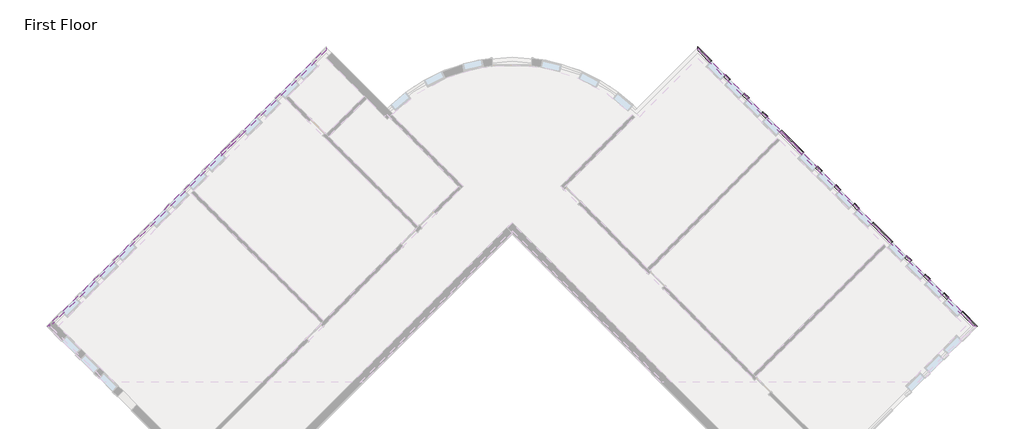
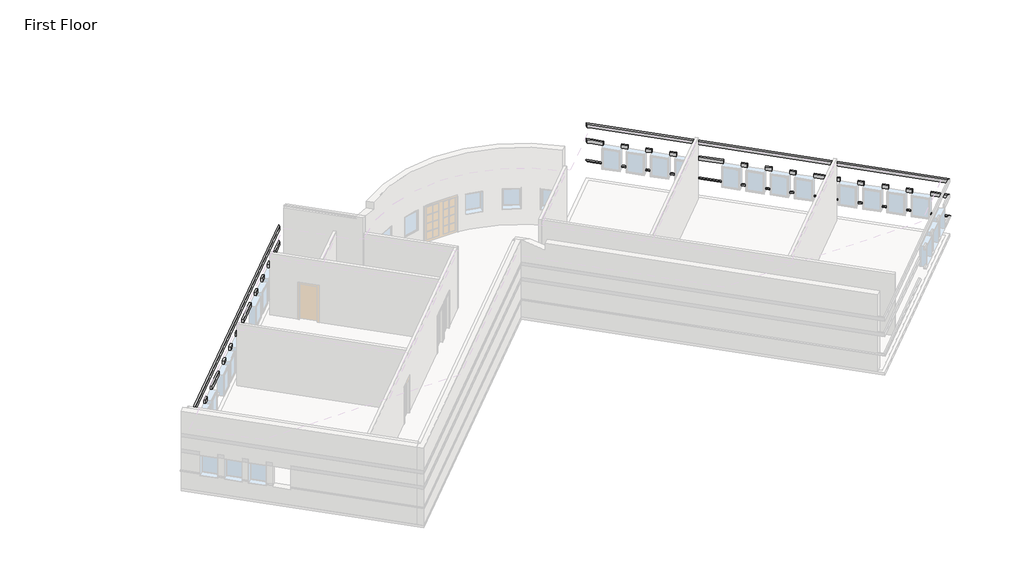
# One storey, part 4 of 4: 5 proxies.
"""IFC4 building model written with IfcOpenShell, lengths in millimetres."""

import ifcopenshell
import ifcopenshell.guid

model = None  # the IFC model being written
_history = None  # IfcOwnerHistory: only IFC2X3 demands one
_inside = {}  # id of a spatial element -> (the spatial element, [elements in it])
_under = {}  # id of a project, library or spatial element -> (it, [spatial elements below it])
_declared = {}  # id of a project -> (the project, [libraries it declares])
_typed = {}  # id of a type object -> (the type object, [elements of that type])
_made_of = {}  # id of a material, layer set ... -> (it, [elements and type objects made of it])


def new_model(schema):
    """Start an empty IFC model of exactly this schema.

    Asked for "IFC4X3", IfcOpenShell would pick the latest addendum, in which some entities
    have other attributes; the version numbers below select the first issue.
    IFC2X3 requires an IfcOwnerHistory on every rooted entity: one is made here for all.
    """
    global model, _history
    if schema == "IFC4X3":
        model = ifcopenshell.file(schema_version=(4, 3, 0, 0))
    else:
        model = ifcopenshell.file(schema=schema)
    _inside.clear()
    _under.clear()
    _declared.clear()
    _typed.clear()
    _made_of.clear()
    _history = None
    if model.schema == "IFC2X3":
        org = make("IfcOrganization", Name="unknown")
        user = make(
            "IfcPersonAndOrganization",
            ThePerson=make("IfcPerson", FamilyName="unknown"),
            TheOrganization=org,
        )
        app = make(
            "IfcApplication",
            ApplicationDeveloper=org,
            Version="unknown",
            ApplicationFullName="unknown",
            ApplicationIdentifier="unknown",
        )
        _history = make(
            "IfcOwnerHistory",
            OwningUser=user,
            OwningApplication=app,
            ChangeAction="ADDED",
            CreationDate=0,
        )
    return model


def make(cls, **values):
    """One entity of the class cls with the attributes given. An attribute that is None is left unset."""
    return model.create_entity(
        cls, **{name: value for name, value in values.items() if value is not None}
    )


def rooted(cls, **values):
    """An entity with a GlobalId (a new one), such as an element, a storey or a relation."""
    return make(cls, GlobalId=ifcopenshell.guid.new(), OwnerHistory=_history, **values)


def si_unit(unit_type, name, prefix=None):
    """IfcSIUnit, for example si_unit("LENGTHUNIT", "METRE", prefix="MILLI")."""
    return make("IfcSIUnit", UnitType=unit_type, Prefix=prefix, Name=name)


def assignment(units):
    """IfcUnitAssignment: the units of a project."""
    return None if units is None else make("IfcUnitAssignment", Units=units)


def point(xyz):
    """IfcCartesianPoint."""
    return None if xyz is None else make("IfcCartesianPoint", Coordinates=xyz)


def direction(xyz):
    """IfcDirection."""
    return None if xyz is None else make("IfcDirection", DirectionRatios=xyz)


def frame(location, z_axis=None, x_axis=None):
    """IfcAxis2Placement3D, a coordinate frame: its origin and axes. An axis left out is left unset."""
    return make(
        "IfcAxis2Placement3D",
        Location=point(location),
        Axis=direction(z_axis),
        RefDirection=direction(x_axis),
    )


def origin():
    """The frame at (0, 0, 0) with its axes left unset."""
    return frame((0.0, 0.0, 0.0))


def place(relative_to, where):
    """IfcLocalPlacement: puts the frame where relative to a parent placement (None: the world)."""
    return make(
        "IfcLocalPlacement", PlacementRelTo=relative_to, RelativePlacement=where
    )


def context(
    kind, dimensions, precision=None, world=None, true_north=None, identifier=None
):
    """IfcGeometricRepresentationContext, for example the 3D "Model" context."""
    return make(
        "IfcGeometricRepresentationContext",
        ContextIdentifier=identifier,
        ContextType=kind,
        CoordinateSpaceDimension=dimensions,
        Precision=precision,
        WorldCoordinateSystem=world,
        TrueNorth=true_north,
    )


def project(units=None, contexts=None):
    """IfcProject with its units and contexts."""
    return rooted(
        "IfcProject",
        Name="project",
        RepresentationContexts=contexts,
        UnitsInContext=assignment(units),
    )


def spatial(cls, under=None, at=None, **own):
    """A site, building, storey or space (cls), placed at a placement, below another one or the project."""
    s = rooted(cls, ObjectPlacement=at, **own)
    if under is not None:
        _under.setdefault(under.id(), (under, []))[1].append(s)
    return s


def faces_of(points, faces, orient=None, outer=None):
    """IfcFace entities. A face is a list of loops; a loop is a list of indices into points, from 0.

    orient and outer hold one flag for each loop. By default every Orientation is true, the
    first loop of a face is its IfcFaceOuterBound and the others are IfcFaceBound.
    """
    made = []
    for i, loops in enumerate(faces):
        bounds = []
        for j, loop in enumerate(loops):
            is_outer = j == 0 if outer is None else outer[i][j]
            bounds.append(
                make(
                    "IfcFaceOuterBound" if is_outer else "IfcFaceBound",
                    Bound=make("IfcPolyLoop", Polygon=[points[k] for k in loop]),
                    Orientation=True if orient is None else orient[i][j],
                )
            )
        made.append(make("IfcFace", Bounds=bounds))
    return made


def faceted_brep(points, faces, orient=None, outer=None, voids=None):
    """IfcFacetedBrep: a solid bounded by flat faces; with voids (closed shells), ...WithVoids."""
    shared = [point(p) for p in points]
    hull = make("IfcClosedShell", CfsFaces=faces_of(shared, faces, orient, outer))
    if voids is None:
        return make("IfcFacetedBrep", Outer=hull)
    return make(
        "IfcFacetedBrepWithVoids",
        Outer=hull,
        Voids=[
            make(cls, CfsFaces=faces_of(shared, fs, o, b)) for cls, fs, o, b in voids
        ],
    )


def shape(context_of_items, identifier, shape_type, items):
    """IfcShapeRepresentation: the items that make up one representation, for example the "Body"."""
    return make(
        "IfcShapeRepresentation",
        ContextOfItems=context_of_items,
        RepresentationIdentifier=identifier,
        RepresentationType=shape_type,
        Items=items,
    )


def made_of(thing, what):
    """Note that an element or type object is made of a material, layer set ...; save() writes the relation."""
    if what is not None:
        _made_of.setdefault(what.id(), (what, []))[1].append(thing)
    return thing


def element(
    cls,
    number,
    at=None,
    inside=None,
    cuts=None,
    type_object=None,
    material=None,
    context=None,
    identifier="Body",
    shape_type=None,
    held_by="IfcProductDefinitionShape",
    body=None,
    shapes=None,
    **own,
):
    """One element of the class cls, such as IfcWall. Its Tag is "e" and its number.

    at: its placement. inside: the storey or other place that contains it. cuts: it is an
    opening in that element (IfcRelVoidsElement). A single representation is given by context,
    identifier, shape_type and body (its items); several are given by shapes. held_by: the class
    of the entity that holds the representations. save() writes the other relations.
    """
    e = rooted(cls, Tag="e%d" % number, ObjectPlacement=at, **own)
    if body is not None:
        shapes = [shape(context, identifier, shape_type, body)]
    if shapes is not None:
        e.Representation = make(held_by, Representations=shapes)
    if inside is not None:
        _inside.setdefault(inside.id(), (inside, []))[1].append(e)
    if cuts is not None:
        rooted(
            "IfcRelVoidsElement", RelatingBuildingElement=cuts, RelatedOpeningElement=e
        )
    if type_object is not None:
        _typed.setdefault(type_object.id(), (type_object, []))[1].append(e)
    return made_of(e, material)


def aggregate(whole, parts):
    """IfcRelAggregates: a whole, such as a stair, and the parts it consists of."""
    return rooted("IfcRelAggregates", RelatingObject=whole, RelatedObjects=parts)


def save(model, path):
    """Write the relations noted so far, then the file.

    IfcRelAggregates (storeys below a building ...), IfcRelContainedInSpatialStructure (elements
    in a storey), IfcRelDefinesByType, IfcRelAssociatesMaterial and IfcRelDeclares: one each for
    every whole, place, type object, material and project.
    """
    for whole, parts in _under.values():
        aggregate(whole, parts)
    for where, things in _inside.values():
        rooted(
            "IfcRelContainedInSpatialStructure",
            RelatedElements=things,
            RelatingStructure=where,
        )
    for kind, things in _typed.values():
        rooted("IfcRelDefinesByType", RelatedObjects=things, RelatingType=kind)
    for what, things in _made_of.values():
        rooted("IfcRelAssociatesMaterial", RelatedObjects=things, RelatingMaterial=what)
    for by, libraries in _declared.values():
        rooted("IfcRelDeclares", RelatingContext=by, RelatedDefinitions=libraries)
    model.write(path)


model = new_model("IFC4")

# Units and contexts
model_context = context("Model", 3, world=origin())
ifc_project = project(units=[si_unit("LENGTHUNIT", "METRE", prefix="MILLI")], contexts=[model_context])

# Site, building, storey
site = spatial("IfcSite", under=ifc_project)
building = spatial("IfcBuilding", under=site)
storey = spatial("IfcBuildingStorey", under=building, Name="First Floor", Elevation=0.0)

# Proxies
placement = place(None, origin())
element("IfcBuildingElementProxy", 1, Name="Wall Sweeps", at=placement, inside=storey, context=model_context, shape_type="Brep", body=[
    faceted_brep([(5753.0175119, 11443.3655905, 1085.85), (5753.0175119, 11573.5793042, 1085.85), (5753.0175119, 11622.9707129, 1041.4), (5753.0175119, 11622.9707129, 1016.0), (5753.0175119, 11443.3655905, 1016.0), (6317.415551, 10878.9675514, 1085.85), (6317.415551, 10878.9675514, 1016.0), (6382.5224079, 10944.0744083, 1016.0), (6407.2181122, 10968.7701126, 1016.0), (6407.2181122, 10968.7701126, 1041.4), (6382.5224079, 10944.0744083, 1085.85), (5937.1127624, 11259.27034, 1085.85), (5937.1127624, 11259.27034, 1016.0)], [[[0, 1, 2, 3, 4]], [[5, 6, 7, 8, 9, 10]], [[1, 0, 11, 5, 10]], [[2, 1, 10, 9]], [[3, 2, 9, 8]], [[4, 3, 8, 7, 6, 12]], [[0, 4, 12, 6, 5, 11]]]),
    faceted_brep([(6963.9939917, 10232.3891107, 1085.85), (7029.1008486, 10297.4959676, 1085.85), (7053.7965529, 10322.1916719, 1041.4), (7053.7965529, 10322.1916719, 1016.0), (7029.1008486, 10297.4959676, 1016.0), (6963.9939917, 10232.3891107, 1016.0), (7179.5201386, 10016.8629638, 1085.85), (7179.5201386, 10016.8629638, 1016.0), (7244.6269955, 10081.9698207, 1016.0), (7269.3226998, 10106.665525, 1016.0), (7269.3226998, 10106.665525, 1041.4), (7244.6269955, 10081.9698207, 1085.85)], [[[0, 1, 2, 3, 4, 5]], [[6, 7, 8, 9, 10, 11]], [[1, 0, 6, 11]], [[2, 1, 11, 10]], [[3, 2, 10, 9]], [[5, 4, 3, 9, 8, 7]], [[0, 5, 7, 6]]]),
    faceted_brep([(7826.0985793, 9370.2845231, 1085.85), (7891.2054362, 9435.39138, 1085.85), (7915.9011405, 9460.0870843, 1041.4), (7915.9011405, 9460.0870843, 1016.0), (7891.2054362, 9435.39138, 1016.0), (7826.0985793, 9370.2845231, 1016.0), (8041.6247262, 9154.7583762, 1085.85), (8041.6247262, 9154.7583762, 1016.0), (8106.7315831, 9219.8652331, 1016.0), (8131.4272874, 9244.5609374, 1016.0), (8131.4272874, 9244.5609374, 1041.4), (8106.7315831, 9219.8652331, 1085.85)], [[[0, 1, 2, 3, 4, 5]], [[6, 7, 8, 9, 10, 11]], [[1, 0, 6, 11]], [[2, 1, 11, 10]], [[3, 2, 10, 9]], [[5, 4, 3, 9, 8, 7]], [[0, 5, 7, 6]]]),
    faceted_brep([(8688.2031669, 8508.1799355, 1085.85), (8753.3100238, 8573.2867923, 1085.85), (8778.0057282, 8597.9824967, 1041.4), (8778.0057282, 8597.9824967, 1016.0), (8753.3100238, 8573.2867923, 1016.0), (8688.2031669, 8508.1799355, 1016.0), (8903.7293139, 8292.6537886, 1085.85), (8903.7293139, 8292.6537886, 1016.0), (8968.8361707, 8357.7606454, 1016.0), (8993.5318751, 8382.4563498, 1016.0), (8993.5318751, 8382.4563498, 1041.4), (8968.8361707, 8357.7606454, 1085.85)], [[[0, 1, 2, 3, 4, 5]], [[6, 7, 8, 9, 10, 11]], [[1, 0, 6, 11]], [[2, 1, 11, 10]], [[3, 2, 10, 9]], [[5, 4, 3, 9, 8, 7]], [[0, 5, 7, 6]]]),
    faceted_brep([(9550.3077546, 7646.0753478, 1085.85), (9615.4146114, 7711.1822047, 1085.85), (9640.1103158, 7735.877909, 1041.4), (9640.1103158, 7735.877909, 1016.0), (9615.4146114, 7711.1822047, 1016.0), (9550.3077546, 7646.0753478, 1016.0), (10574.7639411, 6621.6191613, 1085.85), (10574.7639411, 6621.6191613, 1016.0), (10639.870798, 6686.7260182, 1016.0), (10664.5665023, 6711.4217225, 1016.0), (10664.5665023, 6711.4217225, 1041.4), (10639.870798, 6686.7260182, 1085.85)], [[[0, 1, 2, 3, 4, 5]], [[6, 7, 8, 9, 10, 11]], [[1, 0, 6, 11]], [[2, 1, 11, 10]], [[3, 2, 10, 9]], [[5, 4, 3, 9, 8, 7]], [[0, 5, 7, 6]]]),
    faceted_brep([(11221.3423818, 5975.0407206, 1085.85), (11286.4492387, 6040.1475775, 1085.85), (11311.144943, 6064.8432818, 1041.4), (11311.144943, 6064.8432818, 1016.0), (11286.4492387, 6040.1475775, 1016.0), (11221.3423818, 5975.0407206, 1016.0), (11436.8685287, 5759.5145737, 1085.85), (11436.8685287, 5759.5145737, 1016.0), (11501.9753856, 5824.6214306, 1016.0), (11526.6710899, 5849.3171349, 1016.0), (11526.6710899, 5849.3171349, 1041.4), (11501.9753856, 5824.6214306, 1085.85)], [[[0, 1, 2, 3, 4, 5]], [[6, 7, 8, 9, 10, 11]], [[1, 0, 6, 11]], [[2, 1, 11, 10]], [[3, 2, 10, 9]], [[5, 4, 3, 9, 8, 7]], [[0, 5, 7, 6]]]),
    faceted_brep([(12083.4469694, 5112.936133, 1085.85), (12148.5538263, 5178.0429899, 1085.85), (12173.2495306, 5202.7386942, 1041.4), (12173.2495306, 5202.7386942, 1016.0), (12148.5538263, 5178.0429899, 1016.0), (12083.4469694, 5112.936133, 1016.0), (12298.9731163, 4897.4099861, 1085.85), (12298.9731163, 4897.4099861, 1016.0), (12364.0799732, 4962.516843, 1016.0), (12388.7756775, 4987.2125473, 1016.0), (12388.7756775, 4987.2125473, 1041.4), (12364.0799732, 4962.516843, 1085.85)], [[[0, 1, 2, 3, 4, 5]], [[6, 7, 8, 9, 10, 11]], [[1, 0, 6, 11]], [[2, 1, 11, 10]], [[3, 2, 10, 9]], [[5, 4, 3, 9, 8, 7]], [[0, 5, 7, 6]]]),
    faceted_brep([(12945.551557, 4250.8315454, 1085.85), (13010.6584139, 4315.9384023, 1085.85), (13035.3541182, 4340.6341066, 1041.4), (13035.3541182, 4340.6341066, 1016.0), (13010.6584139, 4315.9384023, 1016.0), (12945.551557, 4250.8315454, 1016.0), (13161.0777039, 4035.3053985, 1085.85), (13161.0777039, 4035.3053985, 1016.0), (13226.1845608, 4100.4122553, 1016.0), (13250.8802652, 4125.1079597, 1016.0), (13250.8802652, 4125.1079597, 1041.4), (13226.1845608, 4100.4122553, 1085.85)], [[[0, 1, 2, 3, 4, 5]], [[6, 7, 8, 9, 10, 11]], [[1, 0, 6, 11]], [[2, 1, 11, 10]], [[3, 2, 10, 9]], [[5, 4, 3, 9, 8, 7]], [[0, 5, 7, 6]]]),
    faceted_brep([(13807.6561447, 3388.7269578, 1085.85), (13872.7630015, 3453.8338146, 1085.85), (13897.4587059, 3478.529519, 1041.4), (13897.4587059, 3478.529519, 1016.0), (13872.7630015, 3453.8338146, 1016.0), (13807.6561447, 3388.7269578, 1016.0), (14723.1708449, 2473.2122576, 1085.85), (14723.1708449, 2473.2122576, 1016.0), (14788.2777017, 2538.3191144, 1016.0), (14812.9734061, 2563.0148188, 1016.0), (14812.9734061, 2563.0148188, 1041.4), (14788.2777017, 2538.3191144, 1085.85)], [[[0, 1, 2, 3, 4, 5]], [[6, 7, 8, 9, 10, 11]], [[1, 0, 6, 11]], [[2, 1, 11, 10]], [[3, 2, 10, 9]], [[5, 4, 3, 9, 8, 7]], [[0, 5, 7, 6]]]),
    faceted_brep([(15369.7492856, 1826.6338168, 1085.85), (15434.8561424, 1891.7406737, 1085.85), (15459.5518468, 1916.4363781, 1041.4), (15459.5518468, 1916.4363781, 1016.0), (15434.8561424, 1891.7406737, 1016.0), (15369.7492856, 1826.6338168, 1016.0), (15585.2754325, 1611.1076699, 1085.85), (15585.2754325, 1611.1076699, 1016.0), (15650.3822894, 1676.2145268, 1016.0), (15675.0779937, 1700.9102311, 1016.0), (15675.0779937, 1700.9102311, 1041.4), (15650.3822894, 1676.2145268, 1085.85)], [[[0, 1, 2, 3, 4, 5]], [[6, 7, 8, 9, 10, 11]], [[1, 0, 6, 11]], [[2, 1, 11, 10]], [[3, 2, 10, 9]], [[5, 4, 3, 9, 8, 7]], [[0, 5, 7, 6]]]),
    faceted_brep([(16231.8538732, 964.5292292, 1085.85), (16296.9607301, 1029.6360861, 1085.85), (16321.6564344, 1054.3317904, 1041.4), (16321.6564344, 1054.3317904, 1016.0), (16296.9607301, 1029.6360861, 1016.0), (16231.8538732, 964.5292292, 1016.0), (16447.3800201, 749.0030823, 1085.85), (16447.3800201, 749.0030823, 1016.0), (16512.486877, 814.1099392, 1016.0), (16537.1825813, 838.8056435, 1016.0), (16537.1825813, 838.8056435, 1041.4), (16512.486877, 814.1099392, 1085.85)], [[[0, 1, 2, 3, 4, 5]], [[6, 7, 8, 9, 10, 11]], [[1, 0, 6, 11]], [[2, 1, 11, 10]], [[3, 2, 10, 9]], [[5, 4, 3, 9, 8, 7]], [[0, 5, 7, 6]]]),
    faceted_brep([(17093.9584608, 102.4246416, 1085.85), (17159.0653177, 167.5314985, 1085.85), (17183.761022, 192.2272028, 1041.4), (17183.761022, 192.2272028, 1016.0), (17159.0653177, 167.5314985, 1016.0), (17093.9584608, 102.4246416, 1016.0), (17309.4846077, -113.1015053, 1085.85), (17309.4846077, -113.1015053, 1016.0), (17374.5914646, -47.9946484, 1016.0), (17399.2871689, -23.2989441, 1016.0), (17399.2871689, -23.2989441, 1041.4), (17374.5914646, -47.9946484, 1085.85)], [[[0, 1, 2, 3, 4, 5]], [[6, 7, 8, 9, 10, 11]], [[1, 0, 6, 11]], [[2, 1, 11, 10]], [[3, 2, 10, 9]], [[5, 4, 3, 9, 8, 7]], [[0, 5, 7, 6]]]),
    faceted_brep([(17956.0630484, -759.679946, 1085.85), (18021.1699053, -694.5730891, 1085.85), (18045.8656096, -669.8773848, 1041.4), (18045.8656096, -669.8773848, 1016.0), (18021.1699053, -694.5730891, 1016.0), (17956.0630484, -759.679946, 1016.0), (18554.3726125, -1357.9895101, 1085.85), (18554.3726125, -1357.9895101, 1016.0), (18733.9777349, -1357.9895101, 1016.0), (18733.9777349, -1357.9895101, 1041.4), (18684.5863263, -1357.9895101, 1085.85)], [[[0, 1, 2, 3, 4, 5]], [[6, 7, 8, 9, 10]], [[1, 0, 6, 10]], [[2, 1, 10, 9]], [[3, 2, 9, 8]], [[5, 4, 3, 8, 7]], [[0, 5, 7, 6]]]),
])
element("IfcBuildingElementProxy", 2, Name="Wall Sweeps", at=placement, inside=storey, context=model_context, shape_type="Brep", body=[
    faceted_brep([(5753.0175119, 11573.5793042, 2336.8), (5753.0175119, 11573.5793042, 2133.6), (5753.0175119, 11443.3655905, 2133.6), (5753.0175119, 11443.3655905, 2336.8), (6382.5224079, 10944.0744083, 2336.8), (6317.415551, 10878.9675514, 2336.8), (6317.415551, 10878.9675514, 2133.6), (6382.5224079, 10944.0744083, 2133.6), (6002.2196193, 11324.3771969, 2336.8), (6002.2196193, 11324.3771969, 2133.6), (5937.1127624, 11259.27034, 2133.6), (5937.1127624, 11259.27034, 2336.8)], [[[0, 1, 2, 3]], [[4, 5, 6, 7]], [[1, 0, 8, 4, 7, 9]], [[2, 1, 9, 7, 6, 10]], [[3, 2, 10, 6, 5, 11]], [[0, 3, 11, 5, 4, 8]]]),
    faceted_brep([(7029.1008486, 10297.4959676, 2336.8), (7029.1008486, 10297.4959676, 2133.6), (6963.9939917, 10232.3891107, 2133.6), (6963.9939917, 10232.3891107, 2336.8), (7244.6269955, 10081.9698207, 2336.8), (7179.5201386, 10016.8629638, 2336.8), (7179.5201386, 10016.8629638, 2133.6), (7244.6269955, 10081.9698207, 2133.6)], [[[0, 1, 2, 3]], [[4, 5, 6, 7]], [[1, 0, 4, 7]], [[2, 1, 7, 6]], [[3, 2, 6, 5]], [[0, 3, 5, 4]]]),
    faceted_brep([(7891.2054362, 9435.39138, 2336.8), (7891.2054362, 9435.39138, 2133.6), (7826.0985793, 9370.2845231, 2133.6), (7826.0985793, 9370.2845231, 2336.8), (8106.7315831, 9219.8652331, 2336.8), (8041.6247262, 9154.7583762, 2336.8), (8041.6247262, 9154.7583762, 2133.6), (8106.7315831, 9219.8652331, 2133.6)], [[[0, 1, 2, 3]], [[4, 5, 6, 7]], [[1, 0, 4, 7]], [[2, 1, 7, 6]], [[3, 2, 6, 5]], [[0, 3, 5, 4]]]),
    faceted_brep([(8753.3100238, 8573.2867923, 2336.8), (8753.3100238, 8573.2867923, 2133.6), (8688.2031669, 8508.1799355, 2133.6), (8688.2031669, 8508.1799355, 2336.8), (8968.8361707, 8357.7606454, 2336.8), (8903.7293139, 8292.6537886, 2336.8), (8903.7293139, 8292.6537886, 2133.6), (8968.8361707, 8357.7606454, 2133.6)], [[[0, 1, 2, 3]], [[4, 5, 6, 7]], [[1, 0, 4, 7]], [[2, 1, 7, 6]], [[3, 2, 6, 5]], [[0, 3, 5, 4]]]),
    faceted_brep([(9615.4146114, 7711.1822047, 2336.8), (9615.4146114, 7711.1822047, 2133.6), (9550.3077546, 7646.0753478, 2133.6), (9550.3077546, 7646.0753478, 2336.8), (10639.870798, 6686.7260182, 2336.8), (10574.7639411, 6621.6191613, 2336.8), (10574.7639411, 6621.6191613, 2133.6), (10639.870798, 6686.7260182, 2133.6)], [[[0, 1, 2, 3]], [[4, 5, 6, 7]], [[1, 0, 4, 7]], [[2, 1, 7, 6]], [[3, 2, 6, 5]], [[0, 3, 5, 4]]]),
    faceted_brep([(11286.4492387, 6040.1475775, 2336.8), (11286.4492387, 6040.1475775, 2133.6), (11221.3423818, 5975.0407206, 2133.6), (11221.3423818, 5975.0407206, 2336.8), (11501.9753856, 5824.6214306, 2336.8), (11436.8685287, 5759.5145737, 2336.8), (11436.8685287, 5759.5145737, 2133.6), (11501.9753856, 5824.6214306, 2133.6)], [[[0, 1, 2, 3]], [[4, 5, 6, 7]], [[1, 0, 4, 7]], [[2, 1, 7, 6]], [[3, 2, 6, 5]], [[0, 3, 5, 4]]]),
    faceted_brep([(12148.5538263, 5178.0429899, 2336.8), (12148.5538263, 5178.0429899, 2133.6), (12083.4469694, 5112.936133, 2133.6), (12083.4469694, 5112.936133, 2336.8), (12364.0799732, 4962.516843, 2336.8), (12298.9731163, 4897.4099861, 2336.8), (12298.9731163, 4897.4099861, 2133.6), (12364.0799732, 4962.516843, 2133.6)], [[[0, 1, 2, 3]], [[4, 5, 6, 7]], [[1, 0, 4, 7]], [[2, 1, 7, 6]], [[3, 2, 6, 5]], [[0, 3, 5, 4]]]),
    faceted_brep([(13010.6584139, 4315.9384023, 2336.8), (13010.6584139, 4315.9384023, 2133.6), (12945.551557, 4250.8315454, 2133.6), (12945.551557, 4250.8315454, 2336.8), (13226.1845608, 4100.4122553, 2336.8), (13161.0777039, 4035.3053985, 2336.8), (13161.0777039, 4035.3053985, 2133.6), (13226.1845608, 4100.4122553, 2133.6)], [[[0, 1, 2, 3]], [[4, 5, 6, 7]], [[1, 0, 4, 7]], [[2, 1, 7, 6]], [[3, 2, 6, 5]], [[0, 3, 5, 4]]]),
    faceted_brep([(13872.7630015, 3453.8338146, 2336.8), (13872.7630015, 3453.8338146, 2133.6), (13807.6561447, 3388.7269578, 2133.6), (13807.6561447, 3388.7269578, 2336.8), (14788.2777017, 2538.3191144, 2336.8), (14723.1708449, 2473.2122576, 2336.8), (14723.1708449, 2473.2122576, 2133.6), (14788.2777017, 2538.3191144, 2133.6)], [[[0, 1, 2, 3]], [[4, 5, 6, 7]], [[1, 0, 4, 7]], [[2, 1, 7, 6]], [[3, 2, 6, 5]], [[0, 3, 5, 4]]]),
    faceted_brep([(15434.8561424, 1891.7406737, 2336.8), (15434.8561424, 1891.7406737, 2133.6), (15369.7492856, 1826.6338168, 2133.6), (15369.7492856, 1826.6338168, 2336.8), (15650.3822894, 1676.2145268, 2336.8), (15585.2754325, 1611.1076699, 2336.8), (15585.2754325, 1611.1076699, 2133.6), (15650.3822894, 1676.2145268, 2133.6)], [[[0, 1, 2, 3]], [[4, 5, 6, 7]], [[1, 0, 4, 7]], [[2, 1, 7, 6]], [[3, 2, 6, 5]], [[0, 3, 5, 4]]]),
    faceted_brep([(16296.9607301, 1029.6360861, 2336.8), (16296.9607301, 1029.6360861, 2133.6), (16231.8538732, 964.5292292, 2133.6), (16231.8538732, 964.5292292, 2336.8), (16512.486877, 814.1099392, 2336.8), (16447.3800201, 749.0030823, 2336.8), (16447.3800201, 749.0030823, 2133.6), (16512.486877, 814.1099392, 2133.6)], [[[0, 1, 2, 3]], [[4, 5, 6, 7]], [[1, 0, 4, 7]], [[2, 1, 7, 6]], [[3, 2, 6, 5]], [[0, 3, 5, 4]]]),
    faceted_brep([(17159.0653177, 167.5314985, 2336.8), (17159.0653177, 167.5314985, 2133.6), (17093.9584608, 102.4246416, 2133.6), (17093.9584608, 102.4246416, 2336.8), (17374.5914646, -47.9946484, 2336.8), (17309.4846077, -113.1015053, 2336.8), (17309.4846077, -113.1015053, 2133.6), (17374.5914646, -47.9946484, 2133.6)], [[[0, 1, 2, 3]], [[4, 5, 6, 7]], [[1, 0, 4, 7]], [[2, 1, 7, 6]], [[3, 2, 6, 5]], [[0, 3, 5, 4]]]),
    faceted_brep([(18021.1699053, -694.5730891, 2336.8), (18021.1699053, -694.5730891, 2133.6), (17956.0630484, -759.679946, 2133.6), (17956.0630484, -759.679946, 2336.8), (18684.5863263, -1357.9895101, 2336.8), (18554.3726125, -1357.9895101, 2336.8), (18554.3726125, -1357.9895101, 2133.6), (18684.5863263, -1357.9895101, 2133.6)], [[[0, 1, 2, 3]], [[4, 5, 6, 7]], [[1, 0, 4, 7]], [[2, 1, 7, 6]], [[3, 2, 6, 5]], [[0, 3, 5, 4]]]),
])
element("IfcBuildingElementProxy", 3, Name="Wall Sweeps", at=placement, inside=storey, context=model_context, shape_type="Brep", body=[
    faceted_brep([(5753.0175119, 11573.5793042, 3251.2), (5753.0175119, 11573.5793042, 3048.0), (5753.0175119, 11443.3655905, 3048.0), (5753.0175119, 11443.3655905, 3251.2), (18684.5863263, -1357.9895101, 3251.2), (18554.3726125, -1357.9895101, 3251.2), (18554.3726125, -1357.9895101, 3048.0), (18684.5863263, -1357.9895101, 3048.0), (6002.2196193, 11324.3771969, 3251.2), (6002.2196193, 11324.3771969, 3048.0), (5937.1127624, 11259.27034, 3048.0), (5937.1127624, 11259.27034, 3251.2)], [[[0, 1, 2, 3]], [[4, 5, 6, 7]], [[1, 0, 8, 4, 7, 9]], [[2, 1, 9, 7, 6, 10]], [[3, 2, 10, 6, 5, 11]], [[0, 3, 11, 5, 4, 8]]]),
])
element("IfcBuildingElementProxy", 4, Name="Wall Sweeps", at=placement, inside=storey, context=model_context, shape_type="Brep", body=[
    faceted_brep([(-24420.6430549, -1357.9895101, 2336.8), (-24420.6430549, -1357.9895101, 2133.6), (-24290.4293411, -1357.9895101, 2133.6), (-24290.4293411, -1357.9895101, 2336.8), (-23757.2266339, -694.5730891, 2336.8), (-23692.119777, -759.679946, 2336.8), (-23692.119777, -759.679946, 2133.6), (-23757.2266339, -694.5730891, 2133.6), (-24171.4409475, -1108.7874027, 2336.8), (-24171.4409475, -1108.7874027, 2133.6), (-24106.3340906, -1173.8942596, 2133.6), (-24106.3340906, -1173.8942596, 2336.8)], [[[0, 1, 2, 3]], [[4, 5, 6, 7]], [[1, 0, 8, 4, 7, 9]], [[2, 1, 9, 7, 6, 10]], [[3, 2, 10, 6, 5, 11]], [[0, 3, 11, 5, 4, 8]]]),
    faceted_brep([(-23110.6481932, -47.9946484, 2336.8), (-23110.6481932, -47.9946484, 2133.6), (-23045.5413363, -113.1015053, 2133.6), (-23045.5413363, -113.1015053, 2336.8), (-22895.1220463, 167.5314985, 2336.8), (-22830.0151894, 102.4246416, 2336.8), (-22830.0151894, 102.4246416, 2133.6), (-22895.1220463, 167.5314985, 2133.6)], [[[0, 1, 2, 3]], [[4, 5, 6, 7]], [[1, 0, 4, 7]], [[2, 1, 7, 6]], [[3, 2, 6, 5]], [[0, 3, 5, 4]]]),
    faceted_brep([(-22248.5436056, 814.1099392, 2336.8), (-22248.5436056, 814.1099392, 2133.6), (-22183.4367487, 749.0030823, 2133.6), (-22183.4367487, 749.0030823, 2336.8), (-22033.0174587, 1029.6360861, 2336.8), (-21967.9106018, 964.5292292, 2336.8), (-21967.9106018, 964.5292292, 2133.6), (-22033.0174587, 1029.6360861, 2133.6)], [[[0, 1, 2, 3]], [[4, 5, 6, 7]], [[1, 0, 4, 7]], [[2, 1, 7, 6]], [[3, 2, 6, 5]], [[0, 3, 5, 4]]]),
    faceted_brep([(-21386.439018, 1676.2145268, 2336.8), (-21386.439018, 1676.2145268, 2133.6), (-21321.3321611, 1611.1076699, 2133.6), (-21321.3321611, 1611.1076699, 2336.8), (-21170.9128711, 1891.7406737, 2336.8), (-21105.8060142, 1826.6338168, 2336.8), (-21105.8060142, 1826.6338168, 2133.6), (-21170.9128711, 1891.7406737, 2133.6)], [[[0, 1, 2, 3]], [[4, 5, 6, 7]], [[1, 0, 4, 7]], [[2, 1, 7, 6]], [[3, 2, 6, 5]], [[0, 3, 5, 4]]]),
    faceted_brep([(-20524.3344303, 2538.3191144, 2336.8), (-20524.3344303, 2538.3191144, 2133.6), (-20459.2275735, 2473.2122576, 2133.6), (-20459.2275735, 2473.2122576, 2336.8), (-19608.8197301, 3453.8338146, 2336.8), (-19543.7128733, 3388.7269578, 2336.8), (-19543.7128733, 3388.7269578, 2133.6), (-19608.8197301, 3453.8338146, 2133.6)], [[[0, 1, 2, 3]], [[4, 5, 6, 7]], [[1, 0, 4, 7]], [[2, 1, 7, 6]], [[3, 2, 6, 5]], [[0, 3, 5, 4]]]),
    faceted_brep([(-18962.2412894, 4100.4122553, 2336.8), (-18962.2412894, 4100.4122553, 2133.6), (-18897.1344326, 4035.3053985, 2133.6), (-18897.1344326, 4035.3053985, 2336.8), (-18746.7151425, 4315.9384023, 2336.8), (-18681.6082856, 4250.8315454, 2336.8), (-18681.6082856, 4250.8315454, 2133.6), (-18746.7151425, 4315.9384023, 2133.6)], [[[0, 1, 2, 3]], [[4, 5, 6, 7]], [[1, 0, 4, 7]], [[2, 1, 7, 6]], [[3, 2, 6, 5]], [[0, 3, 5, 4]]]),
    faceted_brep([(-18100.1367018, 4962.516843, 2336.8), (-18100.1367018, 4962.516843, 2133.6), (-18035.0298449, 4897.4099861, 2133.6), (-18035.0298449, 4897.4099861, 2336.8), (-17884.6105549, 5178.0429899, 2336.8), (-17819.503698, 5112.936133, 2336.8), (-17819.503698, 5112.936133, 2133.6), (-17884.6105549, 5178.0429899, 2133.6)], [[[0, 1, 2, 3]], [[4, 5, 6, 7]], [[1, 0, 4, 7]], [[2, 1, 7, 6]], [[3, 2, 6, 5]], [[0, 3, 5, 4]]]),
    faceted_brep([(-17238.0321142, 5824.6214306, 2336.8), (-17238.0321142, 5824.6214306, 2133.6), (-17172.9252573, 5759.5145737, 2133.6), (-17172.9252573, 5759.5145737, 2336.8), (-17022.5059673, 6040.1475775, 2336.8), (-16957.3991104, 5975.0407206, 2336.8), (-16957.3991104, 5975.0407206, 2133.6), (-17022.5059673, 6040.1475775, 2133.6)], [[[0, 1, 2, 3]], [[4, 5, 6, 7]], [[1, 0, 4, 7]], [[2, 1, 7, 6]], [[3, 2, 6, 5]], [[0, 3, 5, 4]]]),
    faceted_brep([(-16375.9275266, 6686.7260182, 2336.8), (-16375.9275266, 6686.7260182, 2133.6), (-16310.8206697, 6621.6191613, 2133.6), (-16310.8206697, 6621.6191613, 2336.8), (-15351.4713401, 7711.1822047, 2336.8), (-15286.3644832, 7646.0753478, 2336.8), (-15286.3644832, 7646.0753478, 2133.6), (-15351.4713401, 7711.1822047, 2133.6)], [[[0, 1, 2, 3]], [[4, 5, 6, 7]], [[1, 0, 4, 7]], [[2, 1, 7, 6]], [[3, 2, 6, 5]], [[0, 3, 5, 4]]]),
    faceted_brep([(-14704.8928993, 8357.7606454, 2336.8), (-14704.8928993, 8357.7606454, 2133.6), (-14639.7860425, 8292.6537886, 2133.6), (-14639.7860425, 8292.6537886, 2336.8), (-14489.3667524, 8573.2867923, 2336.8), (-14424.2598956, 8508.1799355, 2336.8), (-14424.2598956, 8508.1799355, 2133.6), (-14489.3667524, 8573.2867923, 2133.6)], [[[0, 1, 2, 3]], [[4, 5, 6, 7]], [[1, 0, 4, 7]], [[2, 1, 7, 6]], [[3, 2, 6, 5]], [[0, 3, 5, 4]]]),
    faceted_brep([(-13842.7883117, 9219.8652331, 2336.8), (-13842.7883117, 9219.8652331, 2133.6), (-13777.6814548, 9154.7583762, 2133.6), (-13777.6814548, 9154.7583762, 2336.8), (-13627.2621648, 9435.39138, 2336.8), (-13562.1553079, 9370.2845231, 2336.8), (-13562.1553079, 9370.2845231, 2133.6), (-13627.2621648, 9435.39138, 2133.6)], [[[0, 1, 2, 3]], [[4, 5, 6, 7]], [[1, 0, 4, 7]], [[2, 1, 7, 6]], [[3, 2, 6, 5]], [[0, 3, 5, 4]]]),
    faceted_brep([(-12980.6837241, 10081.9698207, 2336.8), (-12980.6837241, 10081.9698207, 2133.6), (-12915.5768672, 10016.8629638, 2133.6), (-12915.5768672, 10016.8629638, 2336.8), (-12765.1575772, 10297.4959676, 2336.8), (-12700.0507203, 10232.3891107, 2336.8), (-12700.0507203, 10232.3891107, 2133.6), (-12765.1575772, 10297.4959676, 2133.6)], [[[0, 1, 2, 3]], [[4, 5, 6, 7]], [[1, 0, 4, 7]], [[2, 1, 7, 6]], [[3, 2, 6, 5]], [[0, 3, 5, 4]]]),
    faceted_brep([(-12118.5791365, 10944.0744083, 2336.8), (-12118.5791365, 10944.0744083, 2133.6), (-12053.4722796, 10878.9675514, 2133.6), (-12053.4722796, 10878.9675514, 2336.8), (-11489.0742405, 11573.5793042, 2336.8), (-11489.0742405, 11443.3655905, 2336.8), (-11489.0742405, 11443.3655905, 2133.6), (-11489.0742405, 11573.5793042, 2133.6)], [[[0, 1, 2, 3]], [[4, 5, 6, 7]], [[1, 0, 4, 7]], [[2, 1, 7, 6]], [[3, 2, 6, 5]], [[0, 3, 5, 4]]]),
])
element("IfcBuildingElementProxy", 5, Name="Wall Sweeps", at=placement, inside=storey, context=model_context, shape_type="Brep", body=[
    faceted_brep([(-24420.6430549, -1357.9895101, 3251.2), (-24420.6430549, -1357.9895101, 3048.0), (-24290.4293411, -1357.9895101, 3048.0), (-24290.4293411, -1357.9895101, 3251.2), (-11489.0742405, 11573.5793042, 3251.2), (-11489.0742405, 11443.3655905, 3251.2), (-11489.0742405, 11443.3655905, 3048.0), (-11489.0742405, 11573.5793042, 3048.0), (-24171.4409475, -1108.7874027, 3251.2), (-24171.4409475, -1108.7874027, 3048.0), (-24106.3340906, -1173.8942596, 3048.0), (-24106.3340906, -1173.8942596, 3251.2)], [[[0, 1, 2, 3]], [[4, 5, 6, 7]], [[1, 0, 8, 4, 7, 9]], [[2, 1, 9, 7, 6, 10]], [[3, 2, 10, 6, 5, 11]], [[0, 3, 11, 5, 4, 8]]]),
])

save(model, "model.ifc")
